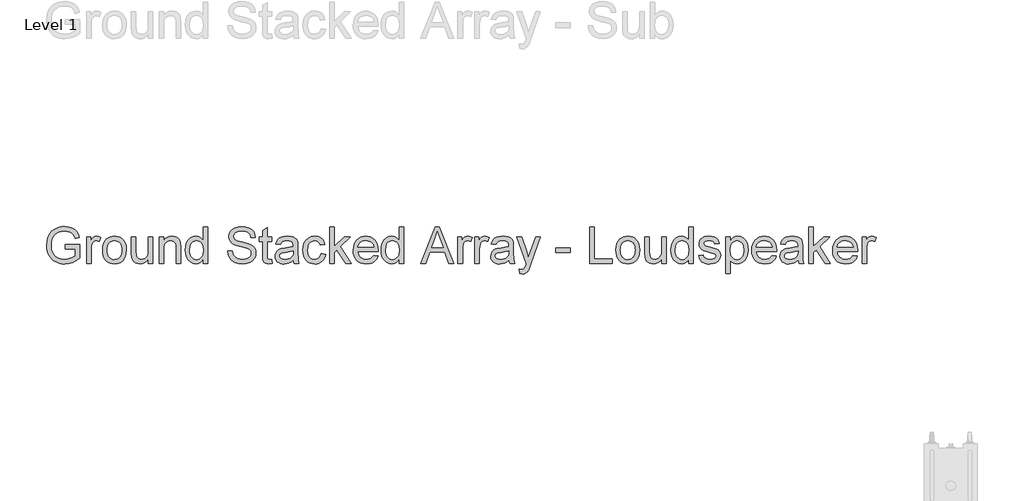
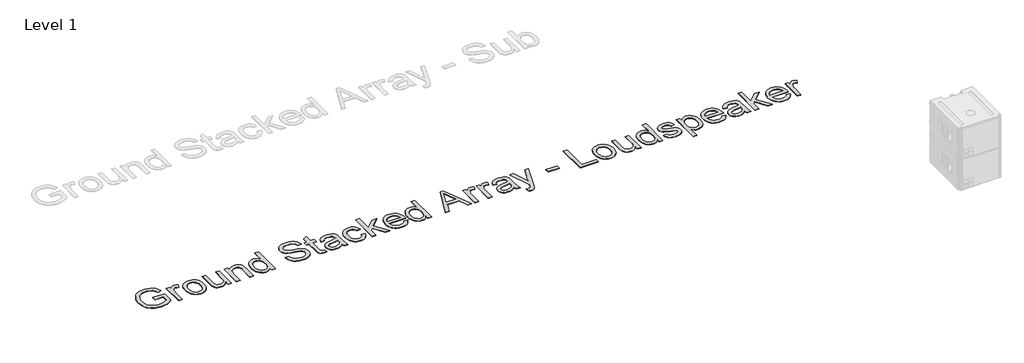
# One storey, part 6 of 31: 1 proxy.
"""IFC4 building model written with IfcOpenShell, lengths in millimetres."""

from ifc_helpers import new_model, si_unit, origin, origin_with_axes, place, context, project, spatial, polyline, outline, extrude, element, save

model = new_model("IFC4")

# Units and contexts
model_context = context("Model", 3, world=origin())
ifc_project = project(units=[si_unit("LENGTHUNIT", "METRE", prefix="MILLI")], contexts=[model_context])

# Site, building, storey
site = spatial("IfcSite", under=ifc_project)
building = spatial("IfcBuilding", under=site)
storey = spatial("IfcBuildingStorey", under=building, Name="Level 1", Elevation=0.0)

# Proxy
placement = place(None, origin())
element("IfcBuildingElementProxy", 1, Name="400mm Arial", ObjectType="400mm Arial", at=placement, inside=storey, context=model_context, shape_type="SweptSolid", body=[
    extrude(outline(polyline([(-20704.1239476, -6940.554912), (-20704.1239476, -6890.3267569), (-20540.8824436, -6890.3267569), (-20540.8824436, -7040.5207128), (-20580.5523854, -7068.1118625), (-20621.473126, -7087.9039138), (-20663.5465635, -7099.8232904), (-20706.6745961, -7103.796416), (-20735.5257415, -7102.2175891), (-20763.021855, -7097.4811084), (-20789.1629364, -7089.5869739), (-20813.9489859, -7078.5351857), (-20836.5798599, -7064.4912905), (-20856.2554153, -7047.6208353), (-20872.975652, -7027.9238202), (-20886.74057, -7005.400245), (-20897.4919213, -6980.7705454), (-20905.1714579, -6954.755157), (-20909.7791799, -6927.3540797), (-20911.3150873, -6898.5673136), (-20905.1959834, -6841.9748), (-20897.5471036, -6815.1592683), (-20886.8386718, -6789.3308865), (-20873.2607605, -6765.6239576), (-20857.003442, -6745.1727844), (-20838.0667163, -6727.9773668), (-20816.4505834, -6714.0377048), (-20792.6240929, -6703.2648937), (-20767.0562942, -6695.5700287), (-20739.7471874, -6690.9531096), (-20710.6967725, -6689.4141366), (-20669.3223108, -6692.982592), (-20632.1171784, -6703.687958), (-20600.7858951, -6720.7576826), (-20577.032981, -6743.4192135), (-20559.4604843, -6772.763934), (-20546.6704536, -6809.8832273), (-20592.9745341, -6822.9307754), (-20603.3120182, -6796.4555345), (-20615.8813197, -6776.4795422), (-20632.5095858, -6761.4209058), (-20655.0239639, -6749.6977329), (-20681.8670869, -6742.156152), (-20711.4815875, -6739.6422917), (-20746.1483341, -6742.3523557), (-20775.7873602, -6750.4825478), (-20800.2883011, -6763.0150611), (-20819.5407922, -6778.9320888), (-20834.3173857, -6797.4120277), (-20845.3906337, -6817.6332747), (-20857.1628576, -6855.5496456), (-20861.0869322, -6896.5071744), (-20856.3657799, -6944.5403003), (-20842.2023231, -6984.0630893), (-20819.0257574, -7014.7934986), (-20787.2652785, -7036.4494854), (-20750.0969342, -7049.288567), (-20710.6967725, -7053.5682609), (-20675.9073985, -7050.3431621), (-20641.9764158, -7040.6678656), (-20612.509068, -7027.3382747), (-20591.1105986, -7013.1502924), (-20591.1105986, -6940.554912), (-20704.1239476, -6940.554912)])), origin_with_axes(), (0.0, 0.0, 1.0), 5.0),
    extrude(outline(polyline([(-20465.540211, -7097.5178966), (-20465.540211, -6802.4274855), (-20421.5905753, -6802.4274855), (-20421.5905753, -6846.0828156), (-20405.3547166, -6820.7725344), (-20390.3941821, -6805.8610508), (-20375.3845967, -6798.5769873), (-20359.0015852, -6796.1489662), (-20333.9856095, -6800.0239898), (-20308.5772264, -6811.6490609), (-20325.3526453, -6856.6778171), (-20343.0109811, -6848.9522952), (-20360.6693169, -6846.3771212), (-20375.6666395, -6848.8541933), (-20389.0698069, -6856.2854096), (-20399.8978003, -6868.1066844), (-20407.1696011, -6883.7539319), (-20413.2764422, -6911.8110654), (-20415.3120559, -6942.4188474), (-20415.3120559, -7097.5178966), (-20465.540211, -7097.5178966)])), origin_with_axes(), (0.0, 0.0, 1.0), 5.0),
    extrude(outline(polyline([(-20289.7416682, -6949.9726911), (-20287.0254728, -6911.7558831), (-20278.8768866, -6878.8243132), (-20265.2959096, -6851.1779813), (-20246.2825418, -6828.8168873), (-20227.1404154, -6814.5246718), (-20206.0117261, -6804.3159465), (-20182.8964741, -6798.1907112), (-20157.7946593, -6796.1489662), (-20130.083948, -6798.6352353), (-20105.0281184, -6806.0940428), (-20082.6271706, -6818.5253885), (-20062.8811045, -6835.9292726), (-20046.7648074, -6857.7170837), (-20035.2531667, -6883.3002108), (-20028.3461822, -6912.6786538), (-20026.0438541, -6945.8524127), (-20030.1150815, -6996.5956026), (-20042.3287637, -7035.2232121), (-20062.3292815, -7064.1509996), (-20089.7610156, -7085.7947237), (-20122.3430977, -7099.2959929), (-20157.7946593, -7103.796416), (-20185.9100407, -7101.3193439), (-20211.1988622, -7093.8881276), (-20233.6611237, -7081.5027671), (-20253.2968252, -7064.1632624), (-20269.241444, -7042.1639191), (-20280.6304575, -7015.7990427), (-20287.4638655, -6985.0686334), (-20289.7416682, -6949.9726911)]), holes=[polyline([(-20239.5135131, -6949.8745892), (-20238.0603792, -6974.2375743), (-20233.7009776, -6995.3325411), (-20226.4353082, -7013.1594894), (-20216.263371, -7027.7184194), (-20203.8902733, -7039.0277251), (-20190.021122, -7047.1058005), (-20174.6559174, -7051.9526458), (-20157.7946593, -7053.5682609), (-20141.0192403, -7051.9434488), (-20125.7153493, -7047.0690123), (-20111.8829863, -7038.9449516), (-20099.5221512, -7027.5712666), (-20089.3502141, -7012.8682495), (-20082.0845447, -6994.7561926), (-20077.725143, -6973.2350959), (-20076.2720091, -6948.3049594), (-20077.7343401, -6924.7145264), (-20082.1213329, -6904.1713827), (-20089.4329875, -6886.6755281), (-20099.669304, -6872.2269628), (-20112.0761243, -6860.9176571), (-20125.8992903, -6852.8395816), (-20141.1388019, -6847.9927363), (-20157.7946593, -6846.3771212), (-20174.6559174, -6847.986605), (-20190.021122, -6852.8150562), (-20203.8902733, -6860.8624748), (-20216.263371, -6872.1288609), (-20226.4353082, -6886.6448713), (-20233.7009776, -6904.4411628), (-20238.0603792, -6925.5177354), (-20239.5135131, -6949.8745892)])]), origin_with_axes(), (0.0, 0.0, 1.0), 5.0),
    extrude(outline(polyline([(-19781.1815981, -7097.5178966), (-19781.1815981, -7046.7992322), (-19799.3549686, -7071.7355001), (-19820.5204461, -7089.54712), (-19844.6780304, -7100.234092), (-19871.8277217, -7103.796416), (-19896.2918744, -7101.2948184), (-19919.0637699, -7093.7900257), (-19938.1691081, -7082.5083112), (-19951.6335892, -7068.6759482), (-19960.695749, -7051.8760037), (-19966.5941236, -7031.6915449), (-19969.5371796, -6984.995057), (-19969.5371796, -6802.4274855), (-19919.3090245, -6802.4274855), (-19919.3090245, -6961.3525075), (-19916.2678667, -7012.5616812), (-19908.947015, -7029.6436685), (-19896.402239, -7042.6299029), (-19879.4674044, -7050.8336714), (-19858.9763773, -7053.5682609), (-19837.3081278, -7050.7723578), (-19817.0378299, -7042.3846483), (-19800.3237245, -7029.1776846), (-19789.3240529, -7011.9240191), (-19783.2172118, -6988.2937322), (-19781.1815981, -6955.9569049), (-19781.1815981, -6802.4274855), (-19730.953443, -6802.4274855), (-19730.953443, -7097.5178966), (-19781.1815981, -7097.5178966)])), origin_with_axes(), (0.0, 0.0, 1.0), 5.0),
    extrude(outline(polyline([(-19661.8897298, -7097.5178966), (-19661.8897298, -6802.4274855), (-19611.6615747, -6802.4274855), (-19611.6615747, -6843.630269), (-19594.2117054, -6822.857199), (-19573.2546944, -6808.0192919), (-19548.7905417, -6799.1165476), (-19520.8192473, -6796.1489662), (-19496.0607891, -6798.5401991), (-19473.3869954, -6805.713898), (-19454.4778609, -6816.7748834), (-19441.0133799, -6830.8279756), (-19431.8776436, -6847.8363865), (-19425.9547435, -6867.7633279), (-19423.3059932, -6916.3237513), (-19423.3059932, -7097.5178966), (-19473.5341482, -7097.5178966), (-19473.5341482, -6923.09278), (-19474.9811507, -6897.1203111), (-19479.3221583, -6878.6526349), (-19487.3297231, -6865.4211459), (-19499.7763972, -6855.1572382), (-19515.7302131, -6848.5721505), (-19534.2592029, -6846.3771212), (-19563.6774998, -6851.30674), (-19588.7547891, -6866.0955962), (-19598.7765078, -6878.168257), (-19605.9348783, -6894.6677645), (-19610.2299006, -6915.5941186), (-19611.6615747, -6940.9473195), (-19611.6615747, -7097.5178966), (-19661.8897298, -7097.5178966)])), origin_with_axes(), (0.0, 0.0, 1.0), 5.0),
    extrude(outline(polyline([(-19172.1652178, -7097.5178966), (-19172.1652178, -7050.1346956), (-19187.1931973, -7073.6116983), (-19205.3972247, -7090.3809859), (-19226.7773, -7100.4425585), (-19251.3334231, -7103.796416), (-19283.8051406, -7098.9403737), (-19313.5300058, -7084.3722466), (-19338.6931343, -7061.1098418), (-19357.4796415, -7030.170966), (-19369.1782889, -6992.806418), (-19373.0778381, -6950.2669967), (-19369.4848573, -6908.2548728), (-19358.7059148, -6870.3139764), (-19340.7532734, -6838.6025484), (-19315.6391959, -6815.2788299), (-19285.2644058, -6800.9314321), (-19251.5296269, -6796.1489662), (-19226.9551096, -6799.5702687), (-19205.2255464, -6809.8341764), (-19186.8069212, -6825.567263), (-19172.1652178, -6845.3961026), (-19172.1652178, -6695.692656), (-19121.9370627, -6695.692656), (-19121.9370627, -7097.5178966), (-19172.1652178, -7097.5178966)]), holes=[polyline([(-19322.849683, -6950.0707929), (-19321.4333373, -6974.4276467), (-19317.1843003, -6995.5042193), (-19310.1025719, -7013.3005109), (-19300.1881521, -7027.8165213), (-19275.4910075, -7047.130326), (-19261.6157249, -7051.9587772), (-19246.7226355, -7053.5682609), (-19231.7590353, -7052.0323536), (-19217.9665262, -7047.4246316), (-19193.894781, -7028.9937436), (-19184.3880971, -7015.0847385), (-19177.5976086, -6997.9322405), (-19172.1652178, -6953.8967657), (-19177.6957104, -6905.7532753), (-19184.6088263, -6887.2181541), (-19194.2871884, -6872.3741156), (-19205.9889016, -6861.0004305), (-19218.9720703, -6852.8763698), (-19233.2366947, -6848.0019334), (-19248.7827746, -6846.3771212), (-19263.9701697, -6847.937554), (-19277.8454523, -6852.6188524), (-19290.4086224, -6860.4210164), (-19301.6596801, -6871.344046), (-19310.9303064, -6885.6270644), (-19317.5521823, -6903.5091951), (-19322.849683, -6950.0707929)])]), origin_with_axes(), (0.0, 0.0, 1.0), 5.0),
    extrude(outline(polyline([(-18902.1888843, -6959.3904702), (-18851.9607292, -6959.3904702), (-18846.1972446, -6987.2636627), (-18835.7739214, -7009.6676762), (-18819.5135372, -7027.4486393), (-18796.2388696, -7041.4526805), (-18767.7893287, -7050.5393658), (-18736.0043243, -7053.5682609), (-18708.0207672, -7051.2751298), (-18683.5198263, -7044.3957365), (-18663.6664613, -7033.5064294), (-18649.6256318, -7019.1835571), (-18641.2747105, -7002.7392319), (-18638.4910701, -6985.4855663), (-18640.5757348, -6968.6733592), (-18646.8297287, -6954.1420204), (-18659.5339202, -6941.7443971), (-18680.9691778, -6931.3333367), (-18754.1041185, -6912.154422), (-18802.1127188, -6899.4624931), (-18832.8308654, -6887.383701), (-18857.8345784, -6870.4856547), (-18875.5542278, -6850.0068903), (-18886.1124411, -6826.3888662), (-18889.6318455, -6800.0730408), (-18885.2785752, -6770.6547439), (-18872.2187644, -6743.2230098), (-18850.7957695, -6719.9728677), (-18821.3529472, -6703.0993468), (-18786.0117502, -6692.8354392), (-18746.8936314, -6689.4141366), (-18704.5136255, -6692.9948547), (-18667.4311204, -6703.737009), (-18636.9704912, -6721.4198702), (-18614.4561131, -6745.8227092), (-18600.2068172, -6775.4249471), (-18594.5414344, -6808.7060049), (-18644.7695895, -6808.7060049), (-18653.9911648, -6778.7358851), (-18662.3543489, -6766.8778221), (-18673.2191305, -6757.1044237), (-18703.2628267, -6744.0078247), (-18744.9315941, -6739.6422917), (-18787.58138, -6743.9587738), (-18803.8846838, -6749.3543764), (-18816.8402614, -6756.90822), (-18833.7628332, -6775.9645074), (-18839.4036904, -6798.6015128), (-18835.4060394, -6817.9030548), (-18823.4130864, -6833.427675), (-18795.0616473, -6847.309089), (-18741.3999269, -6861.4848085), (-18686.0214239, -6874.9492895), (-18652.5196369, -6886.6969879), (-18623.8861549, -6904.9194094), (-18603.9101626, -6927.409262), (-18592.1747269, -6953.9212912), (-18588.262915, -6984.2102421), (-18592.7633381, -7015.1736434), (-18606.2646073, -7044.2976346), (-18628.2148997, -7069.3626612), (-18658.0623923, -7088.1491685), (-18693.9554123, -7099.8846041), (-18734.042287, -7103.796416), (-18783.2526352, -7099.5780358), (-18823.7564429, -7086.9228951), (-18856.0196939, -7065.7819432), (-18880.508372, -7036.1061289), (-18896.2291959, -6999.9555915), (-18902.1888843, -6959.3904702)])), origin_with_axes(), (0.0, 0.0, 1.0), 5.0),
    extrude(outline(polyline([(-18412.4643723, -7055.6284001), (-18406.1858529, -7098.9894246), (-18443.7588673, -7103.796416), (-18467.8674008, -7101.7117514), (-18485.8445676, -7095.4577574), (-18498.5487592, -7085.8192492), (-18506.8383668, -7073.5810415), (-18511.4001035, -7052.5627168), (-18512.9206824, -7016.5838577), (-18512.9206824, -6852.6556406), (-18550.5917987, -6852.6556406), (-18550.5917987, -6802.4274855), (-18512.9206824, -6802.4274855), (-18512.9206824, -6730.715022), (-18462.6925274, -6701.1863605), (-18462.6925274, -6802.4274855), (-18412.4643723, -6802.4274855), (-18412.4643723, -6852.6556406), (-18462.6925274, -6852.6556406), (-18462.6925274, -7015.1123297), (-18460.043777, -7041.0112221), (-18451.4598638, -7050.1837466), (-18434.3410883, -7053.5682609), (-18412.4643723, -7055.6284001)])), origin_with_axes(), (0.0, 0.0, 1.0), 5.0),
    extrude(outline(polyline([(-18173.8806357, -7059.8467803), (-18197.8788045, -7080.4236466), (-18222.5882118, -7093.8881276), (-18248.5729434, -7101.3193439), (-18276.397085, -7103.796416), (-18298.7612446, -7102.3064939), (-18318.3724206, -7097.8367277), (-18335.2306131, -7090.3871173), (-18349.3358219, -7079.9576627), (-18360.4734493, -7067.2105516), (-18368.4288975, -7052.8079715), (-18373.2021663, -7036.7499224), (-18374.793256, -7019.0364043), (-18372.3897603, -6998.2142834), (-18365.1792732, -6979.3051488), (-18354.0569742, -6963.118341), (-18339.9180428, -6950.4632004), (-18323.3020394, -6940.8982685), (-18304.7485241, -6933.982087), (-18261.2893977, -6926.4282434), (-18209.9330712, -6918.4819923), (-18174.1749413, -6909.1623151), (-18173.8806357, -6897.9787024), (-18177.3387264, -6875.5624262), (-18187.7129987, -6860.8961973), (-18210.9140899, -6850.0068903), (-18243.2386545, -6846.3771212), (-18273.1597234, -6848.7928797), (-18294.0554208, -6856.040155), (-18308.3047167, -6869.4433223), (-18318.2865815, -6890.3267569), (-18368.5147366, -6884.0482375), (-18359.7959333, -6856.5797152), (-18346.7851734, -6834.9973049), (-18328.2684463, -6818.491666), (-18303.0317414, -6806.2534583), (-18272.1664421, -6798.6750892), (-18236.7639314, -6796.1489662), (-18202.8084232, -6798.3807836), (-18175.8917239, -6805.0762359), (-18155.5969005, -6815.1439398), (-18141.5070201, -6827.4925121), (-18132.1628174, -6842.7596149), (-18126.1050272, -6861.5829104), (-18123.6524806, -6905.5325461), (-18123.6524806, -6968.0234343), (-18121.1018321, -7055.2850436), (-18111.0954418, -7097.5178966), (-18161.3235969, -7097.5178966), (-18169.3679499, -7080.0557646), (-18173.8806357, -7059.8467803)]), holes=[polyline([(-18173.8806357, -6959.3904702), (-18207.6276774, -6967.7536542), (-18254.9127765, -6974.792463), (-18298.1266482, -6982.9349178), (-18309.3715745, -6988.5021987), (-18317.6979703, -6996.1786697), (-18322.8483183, -7005.3757195), (-18324.5651009, -7015.5047372), (-18320.8249673, -7030.4407462), (-18309.6045664, -7042.6789539), (-18291.149153, -7050.8459342), (-18265.7039817, -7053.5682609), (-18238.7259687, -7050.5638913), (-18214.8872154, -7041.5507824), (-18195.5611479, -7028.2702424), (-18182.1211924, -7012.4635793), (-18176.161504, -6996.1786697), (-18174.1749413, -6973.6152406), (-18173.8806357, -6959.3904702)])]), origin_with_axes(), (0.0, 0.0, 1.0), 5.0),
    extrude(outline(polyline([(-17866.2331858, -6990.7830671), (-17816.0050308, -6997.0615865), (-17821.4680784, -7020.762384), (-17830.009072, -7041.7347234), (-17841.6280117, -7059.9786047), (-17856.3248974, -7075.4940278), (-17873.4804611, -7087.8763227), (-17892.4754348, -7096.720819), (-17913.3098185, -7102.0275167), (-17935.9836121, -7103.796416), (-17964.1541759, -7101.3285409), (-17989.4123406, -7093.9249158), (-18011.7581061, -7081.5855405), (-18031.1914725, -7064.3104152), (-18046.9214935, -7042.4245021), (-18058.1572227, -7016.2527639), (-18064.8986603, -6985.7952004), (-18067.1458061, -6951.0518116), (-18063.3075707, -6906.3541492), (-18051.7928642, -6867.6161751), (-18032.4177458, -6836.3339428), (-18004.9982744, -6814.0035057), (-17972.1954632, -6800.612601), (-17936.6703252, -6796.1489662), (-17914.3858733, -6797.6818078), (-17894.2290057, -6802.2803327), (-17876.1997222, -6809.944541), (-17860.298023, -6820.6744325), (-17846.7936881, -6834.2247527), (-17835.9564976, -6850.3502468), (-17827.7864517, -6869.0509149), (-17822.2835501, -6890.3267569), (-17872.5117052, -6896.6052763), (-17881.622916, -6874.6917721), (-17895.8108983, -6858.9832109), (-17914.2908371, -6849.5286437), (-17936.2779177, -6846.3771212), (-17953.3445766, -6847.928357), (-17968.7373724, -6852.5820642), (-17982.4563052, -6860.338243), (-17994.5013748, -6871.1968932), (-18004.3084957, -6885.4094009), (-18011.313582, -6903.2271522), (-18015.5166338, -6924.6501471), (-18016.9176511, -6949.6783855), (-18011.4362093, -6996.7550181), (-18004.5844072, -7014.6923311), (-17994.9918842, -7028.8956418), (-17983.1859378, -7039.6899126), (-17969.6938656, -7047.4001061), (-17954.5156676, -7052.0262222), (-17937.6513438, -7053.5682609), (-17911.6420868, -7049.7177627), (-17890.3171938, -7038.1662681), (-17874.8048363, -7018.6194714), (-17866.2331858, -6990.7830671)])), origin_with_axes(), (0.0, 0.0, 1.0), 5.0),
    extrude(outline(polyline([(-17772.0553951, -7097.5178966), (-17772.0553951, -6695.692656), (-17721.82724, -6695.692656), (-17721.82724, -6911.6148617), (-17609.2062985, -6802.4274855), (-17539.7501779, -6802.4274855), (-17653.8426473, -6912.9882878), (-17533.4716585, -7097.5178966), (-17592.136574, -7097.5178966), (-17689.8460319, -6947.9125519), (-17721.82724, -6979.0108432), (-17721.82724, -7097.5178966), (-17772.0553951, -7097.5178966)])), origin_with_axes(), (0.0, 0.0, 1.0), 5.0),
    extrude(outline(polyline([(-17282.9194943, -7009.6186252), (-17233.6723579, -7015.8971446), (-17241.2231358, -7035.6217509), (-17251.4165328, -7053.0041752), (-17264.2525487, -7068.0444174), (-17279.7311837, -7080.7424776), (-17297.6930221, -7090.8285757), (-17317.9786484, -7098.0329314), (-17365.5212649, -7103.796416), (-17396.6870013, -7101.3101468), (-17424.4559606, -7093.8513394), (-17448.8281427, -7081.4199936), (-17469.8035478, -7064.0161096), (-17486.6709373, -7042.1240652), (-17498.7190727, -7016.2282384), (-17505.9479539, -6986.3286292), (-17508.3575809, -6952.4252377), (-17505.9234284, -6917.3722149), (-17498.6209708, -6886.4762587), (-17486.4502081, -6859.737369), (-17469.4111404, -6837.1555459), (-17448.4909176, -6819.2151673), (-17424.6766898, -6806.4006111), (-17397.9684569, -6798.7118774), (-17368.366219, -6796.1489662), (-17339.7174087, -6798.705746), (-17313.8093191, -6806.3760856), (-17290.6419505, -6819.159985), (-17270.2153027, -6837.057444), (-17253.5410513, -6859.5902162), (-17241.6308717, -6886.280055), (-17234.4847639, -6917.1269603), (-17232.102728, -6952.1309321), (-17232.3970336, -6965.6689895), (-17458.1294259, -6965.6689895), (-17455.2200924, -6985.7124269), (-17449.435148, -7003.2665294), (-17440.7745927, -7018.3312971), (-17429.2384265, -7030.90673), (-17415.4643115, -7040.8211498), (-17400.0899098, -7047.9028782), (-17364.5402463, -7053.5682609), (-17337.807488, -7050.944036), (-17315.2931099, -7043.0713613), (-17296.997112, -7029.4597275), (-17282.9194943, -7009.6186252)]), holes=[polyline([(-17458.1294259, -6915.4408345), (-17282.3308831, -6915.4408345), (-17289.1244373, -6888.9042799), (-17302.4417655, -6869.9215689), (-17316.1392385, -6859.6208731), (-17331.7251723, -6852.2632332), (-17349.1995671, -6847.8486492), (-17368.5624228, -6846.3771212), (-17402.4198291, -6851.073748), (-17430.4156489, -6865.1636285), (-17449.8766064, -6887.1261836), (-17458.1294259, -6915.4408345)])]), origin_with_axes(), (0.0, 0.0, 1.0), 5.0),
    extrude(outline(polyline([(-16999.7975108, -7097.5178966), (-16999.7975108, -7050.1346956), (-17014.8254903, -7073.6116983), (-17033.0295177, -7090.3809859), (-17054.409593, -7100.4425585), (-17078.9657162, -7103.796416), (-17111.4374336, -7098.9403737), (-17141.1622988, -7084.3722466), (-17166.3254273, -7061.1098418), (-17185.1119345, -7030.170966), (-17196.810582, -6992.806418), (-17200.7101311, -6950.2669967), (-17197.1171503, -6908.2548728), (-17186.3382078, -6870.3139764), (-17168.3855665, -6838.6025484), (-17143.2714889, -6815.2788299), (-17112.8966989, -6800.9314321), (-17079.1619199, -6796.1489662), (-17054.5874026, -6799.5702687), (-17032.8578394, -6809.8341764), (-17014.4392142, -6825.567263), (-16999.7975108, -6845.3961026), (-16999.7975108, -6695.692656), (-16949.5693557, -6695.692656), (-16949.5693557, -7097.5178966), (-16999.7975108, -7097.5178966)]), holes=[polyline([(-17150.481976, -6950.0707929), (-17149.0656303, -6974.4276467), (-17144.8165933, -6995.5042193), (-17137.7348649, -7013.3005109), (-17127.8204451, -7027.8165213), (-17103.1233005, -7047.130326), (-17089.2480179, -7051.9587772), (-17074.3549285, -7053.5682609), (-17059.3913283, -7052.0323536), (-17045.5988192, -7047.4246316), (-17021.527074, -7028.9937436), (-17012.0203901, -7015.0847385), (-17005.2299016, -6997.9322405), (-16999.7975108, -6953.8967657), (-17005.3280035, -6905.7532753), (-17012.2411193, -6887.2181541), (-17021.9194814, -6872.3741156), (-17033.6211946, -6861.0004305), (-17046.6043633, -6852.8763698), (-17060.8689877, -6848.0019334), (-17076.4150677, -6846.3771212), (-17091.6024627, -6847.937554), (-17105.4777453, -6852.6188524), (-17118.0409154, -6860.4210164), (-17129.2919731, -6871.344046), (-17138.5625994, -6885.6270644), (-17145.1844753, -6903.5091951), (-17150.481976, -6950.0707929)])]), origin_with_axes(), (0.0, 0.0, 1.0), 5.0),
    extrude(outline(polyline([(-16757.682107, -7097.5178966), (-16597.2855571, -6695.692656), (-16554.5131438, -6695.692656), (-16394.2146958, -7097.5178966), (-16447.287805, -7097.5178966), (-16493.199478, -6971.9475089), (-16658.7954267, -6971.9475089), (-16704.7070997, -7097.5178966), (-16757.682107, -7097.5178966)]), holes=[polyline([(-16640.352276, -6921.7193538), (-16511.5445268, -6921.7193538), (-16547.842217, -6822.9307754), (-16575.9974524, -6745.9208111), (-16601.013428, -6814.2978113), (-16640.352276, -6921.7193538)])]), origin_with_axes(), (0.0, 0.0, 1.0), 5.0),
    extrude(outline(polyline([(-16346.8314948, -7097.5178966), (-16346.8314948, -6802.4274855), (-16302.8818591, -6802.4274855), (-16302.8818591, -6846.0828156), (-16286.6460004, -6820.7725344), (-16271.6854659, -6805.8610508), (-16256.6758805, -6798.5769873), (-16240.292869, -6796.1489662), (-16215.2768934, -6800.0239898), (-16189.8685102, -6811.6490609), (-16206.6439292, -6856.6778171), (-16224.302265, -6848.9522952), (-16241.9606007, -6846.3771212), (-16256.9579234, -6848.8541933), (-16270.3610908, -6856.2854096), (-16281.1890842, -6868.1066844), (-16288.4608849, -6883.7539319), (-16294.567726, -6911.8110654), (-16296.6033398, -6942.4188474), (-16296.6033398, -7097.5178966), (-16346.8314948, -7097.5178966)])), origin_with_axes(), (0.0, 0.0, 1.0), 5.0),
    extrude(outline(polyline([(-16158.4759133, -7097.5178966), (-16158.4759133, -6802.4274855), (-16114.5262776, -6802.4274855), (-16114.5262776, -6846.0828156), (-16098.2904189, -6820.7725344), (-16083.3298844, -6805.8610508), (-16068.320299, -6798.5769873), (-16051.9372875, -6796.1489662), (-16026.9213118, -6800.0239898), (-16001.5129287, -6811.6490609), (-16018.2883477, -6856.6778171), (-16035.9466834, -6848.9522952), (-16053.6050192, -6846.3771212), (-16068.6023419, -6848.8541933), (-16082.0055092, -6856.2854096), (-16092.8335026, -6868.1066844), (-16100.1053034, -6883.7539319), (-16106.2121445, -6911.8110654), (-16108.2477582, -6942.4188474), (-16108.2477582, -7097.5178966), (-16158.4759133, -7097.5178966)])), origin_with_axes(), (0.0, 0.0, 1.0), 5.0),
    extrude(outline(polyline([(-15781.7647502, -7059.8467803), (-15805.7629191, -7080.4236466), (-15830.4723264, -7093.8881276), (-15856.457058, -7101.3193439), (-15884.2811996, -7103.796416), (-15906.6453592, -7102.3064939), (-15926.2565352, -7097.8367277), (-15943.1147276, -7090.3871173), (-15957.2199365, -7079.9576627), (-15968.3575639, -7067.2105516), (-15976.313012, -7052.8079715), (-15981.0862809, -7036.7499224), (-15982.6773705, -7019.0364043), (-15980.2738748, -6998.2142834), (-15973.0633877, -6979.3051488), (-15961.9410887, -6963.118341), (-15947.8021574, -6950.4632004), (-15931.1861539, -6940.8982685), (-15912.6326387, -6933.982087), (-15869.1735123, -6926.4282434), (-15817.8171858, -6918.4819923), (-15782.0590558, -6909.1623151), (-15781.7647502, -6897.9787024), (-15785.222841, -6875.5624262), (-15795.5971133, -6860.8961973), (-15818.7982044, -6850.0068903), (-15851.1227691, -6846.3771212), (-15881.043838, -6848.7928797), (-15901.9395353, -6856.040155), (-15916.1888313, -6869.4433223), (-15926.1706961, -6890.3267569), (-15976.3988512, -6884.0482375), (-15967.6800479, -6856.5797152), (-15954.669288, -6834.9973049), (-15936.1525609, -6818.491666), (-15910.915856, -6806.2534583), (-15880.0505566, -6798.6750892), (-15844.6480459, -6796.1489662), (-15810.6925378, -6798.3807836), (-15783.7758385, -6805.0762359), (-15763.4810151, -6815.1439398), (-15749.3911347, -6827.4925121), (-15740.046932, -6842.7596149), (-15733.9891418, -6861.5829104), (-15731.5365952, -6905.5325461), (-15731.5365952, -6968.0234343), (-15728.9859467, -7055.2850436), (-15718.9795564, -7097.5178966), (-15769.2077115, -7097.5178966), (-15777.2520644, -7080.0557646), (-15781.7647502, -7059.8467803)]), holes=[polyline([(-15781.7647502, -6959.3904702), (-15815.5117919, -6967.7536542), (-15862.796891, -6974.792463), (-15906.0107627, -6982.9349178), (-15917.2556891, -6988.5021987), (-15925.5820849, -6996.1786697), (-15930.7324328, -7005.3757195), (-15932.4492155, -7015.5047372), (-15928.7090818, -7030.4407462), (-15917.488681, -7042.6789539), (-15899.0332676, -7050.8459342), (-15873.5880962, -7053.5682609), (-15846.6100833, -7050.5638913), (-15822.77133, -7041.5507824), (-15803.4452625, -7028.2702424), (-15790.0053069, -7012.4635793), (-15784.0456186, -6996.1786697), (-15782.0590558, -6973.6152406), (-15781.7647502, -6959.3904702)])]), origin_with_axes(), (0.0, 0.0, 1.0), 5.0),
    extrude(outline(polyline([(-15662.4728819, -7210.5312455), (-15668.7514013, -7162.1670259), (-15643.2449163, -7166.5816098), (-15629.8294862, -7165.195921), (-15619.406163, -7161.0388544), (-15604.7889851, -7145.5878106), (-15591.0547239, -7108.6034074), (-15587.1306493, -7096.4387761), (-15693.8654789, -6802.4274855), (-15640.9885734, -6802.4274855), (-15584.2856952, -6966.3557026), (-15564.5672203, -7031.8877487), (-15544.8487453, -6973.9095462), (-15486.6743392, -6802.4274855), (-15434.1898412, -6802.4274855), (-15536.9024942, -7104.5812309), (-15563.5862016, -7170.113277), (-15577.2468864, -7191.0334998), (-15592.7224556, -7205.5280504), (-15610.675097, -7213.9893363), (-15631.7669981, -7216.8097649), (-15662.4728819, -7210.5312455)])), origin_with_axes(), (0.0, 0.0, 1.0), 5.0),
    extrude(outline(polyline([(-15260.6476413, -6978.2260283), (-15260.6476413, -6927.9978732), (-15103.6846567, -6927.9978732), (-15103.6846567, -6978.2260283), (-15260.6476413, -6978.2260283)])), origin_with_axes(), (0.0, 0.0, 1.0), 5.0),
    extrude(outline(polyline([(-14883.9364783, -7097.5178966), (-14883.9364783, -6695.692656), (-14833.7083232, -6695.692656), (-14833.7083232, -7047.2897415), (-14632.7957029, -7047.2897415), (-14632.7957029, -7097.5178966), (-14883.9364783, -7097.5178966)])), origin_with_axes(), (0.0, 0.0, 1.0), 5.0),
    extrude(outline(polyline([(-14595.1245866, -6949.9726911), (-14592.4083912, -6911.7558831), (-14584.259805, -6878.8243132), (-14570.678828, -6851.1779813), (-14551.6654602, -6828.8168873), (-14532.5233337, -6814.5246718), (-14511.3946445, -6804.3159465), (-14488.2793925, -6798.1907112), (-14463.1775777, -6796.1489662), (-14435.4668664, -6798.6352353), (-14410.4110368, -6806.0940428), (-14388.010089, -6818.5253885), (-14368.2640229, -6835.9292726), (-14352.1477258, -6857.7170837), (-14340.6360851, -6883.3002108), (-14333.7291006, -6912.6786538), (-14331.4267725, -6945.8524127), (-14335.4979999, -6996.5956026), (-14347.7116821, -7035.2232121), (-14367.7121999, -7064.1509996), (-14395.143934, -7085.7947237), (-14427.7260161, -7099.2959929), (-14463.1775777, -7103.796416), (-14491.2929591, -7101.3193439), (-14516.5817806, -7093.8881276), (-14539.0440421, -7081.5027671), (-14558.6797436, -7064.1632624), (-14574.6243624, -7042.1639191), (-14586.0133758, -7015.7990427), (-14592.8467839, -6985.0686334), (-14595.1245866, -6949.9726911)]), holes=[polyline([(-14544.8964315, -6949.8745892), (-14543.4432976, -6974.2375743), (-14539.083896, -6995.3325411), (-14531.8182266, -7013.1594894), (-14521.6462894, -7027.7184194), (-14509.2731917, -7039.0277251), (-14495.4040404, -7047.1058005), (-14480.0388358, -7051.9526458), (-14463.1775777, -7053.5682609), (-14446.4021587, -7051.9434488), (-14431.0982677, -7047.0690123), (-14417.2659047, -7038.9449516), (-14404.9050696, -7027.5712666), (-14394.7331325, -7012.8682495), (-14387.467463, -6994.7561926), (-14383.1080614, -6973.2350959), (-14381.6549275, -6948.3049594), (-14383.1172585, -6924.7145264), (-14387.5042512, -6904.1713827), (-14394.8159059, -6886.6755281), (-14405.0522224, -6872.2269628), (-14417.4590427, -6860.9176571), (-14431.2822087, -6852.8395816), (-14446.5217203, -6847.9927363), (-14463.1775777, -6846.3771212), (-14480.0388358, -6847.986605), (-14495.4040404, -6852.8150562), (-14509.2731917, -6860.8624748), (-14521.6462894, -6872.1288609), (-14531.8182266, -6886.6448713), (-14539.083896, -6904.4411628), (-14543.4432976, -6925.5177354), (-14544.8964315, -6949.8745892)])]), origin_with_axes(), (0.0, 0.0, 1.0), 5.0),
    extrude(outline(polyline([(-14086.5645165, -7097.5178966), (-14086.5645165, -7046.7992322), (-14104.737887, -7071.7355001), (-14125.9033645, -7089.54712), (-14150.0609488, -7100.234092), (-14177.2106401, -7103.796416), (-14201.6747928, -7101.2948184), (-14224.4466883, -7093.7900257), (-14243.5520265, -7082.5083112), (-14257.0165076, -7068.6759482), (-14266.0786674, -7051.8760037), (-14271.977042, -7031.6915449), (-14274.920098, -6984.995057), (-14274.920098, -6802.4274855), (-14224.6919429, -6802.4274855), (-14224.6919429, -6961.3525075), (-14221.6507851, -7012.5616812), (-14214.3299334, -7029.6436685), (-14201.7851574, -7042.6299029), (-14184.8503228, -7050.8336714), (-14164.3592957, -7053.5682609), (-14142.6910462, -7050.7723578), (-14122.4207483, -7042.3846483), (-14105.7066429, -7029.1776846), (-14094.7069713, -7011.9240191), (-14088.6001302, -6988.2937322), (-14086.5645165, -6955.9569049), (-14086.5645165, -6802.4274855), (-14036.3363614, -6802.4274855), (-14036.3363614, -7097.5178966), (-14086.5645165, -7097.5178966)])), origin_with_axes(), (0.0, 0.0, 1.0), 5.0),
    extrude(outline(polyline([(-13785.195586, -7097.5178966), (-13785.195586, -7050.1346956), (-13800.2235655, -7073.6116983), (-13818.4275929, -7090.3809859), (-13839.8076682, -7100.4425585), (-13864.3637914, -7103.796416), (-13896.8355088, -7098.9403737), (-13926.560374, -7084.3722466), (-13951.7235025, -7061.1098418), (-13970.5100097, -7030.170966), (-13982.2086572, -6992.806418), (-13986.1082063, -6950.2669967), (-13982.5152255, -6908.2548728), (-13971.736283, -6870.3139764), (-13953.7836417, -6838.6025484), (-13928.6695641, -6815.2788299), (-13898.2947741, -6800.9314321), (-13864.5599951, -6796.1489662), (-13839.9854778, -6799.5702687), (-13818.2559146, -6809.8341764), (-13799.8372894, -6825.567263), (-13785.195586, -6845.3961026), (-13785.195586, -6695.692656), (-13734.9674309, -6695.692656), (-13734.9674309, -7097.5178966), (-13785.195586, -7097.5178966)]), holes=[polyline([(-13935.8800512, -6950.0707929), (-13934.4637056, -6974.4276467), (-13930.2146685, -6995.5042193), (-13923.1329401, -7013.3005109), (-13913.2185203, -7027.8165213), (-13888.5213757, -7047.130326), (-13874.6460931, -7051.9587772), (-13859.7530037, -7053.5682609), (-13844.7894035, -7052.0323536), (-13830.9968944, -7047.4246316), (-13806.9251492, -7028.9937436), (-13797.4184653, -7015.0847385), (-13790.6279768, -6997.9322405), (-13785.195586, -6953.8967657), (-13790.7260787, -6905.7532753), (-13797.6391945, -6887.2181541), (-13807.3175567, -6872.3741156), (-13819.0192698, -6861.0004305), (-13832.0024385, -6852.8763698), (-13846.2670629, -6848.0019334), (-13861.8131429, -6846.3771212), (-13877.0005379, -6847.937554), (-13890.8758205, -6852.6188524), (-13903.4389906, -6860.4210164), (-13914.6900483, -6871.344046), (-13923.9606746, -6885.6270644), (-13930.5825505, -6903.5091951), (-13935.8800512, -6950.0707929)])]), origin_with_axes(), (0.0, 0.0, 1.0), 5.0),
    extrude(outline(polyline([(-13678.4607565, -7009.6186252), (-13628.2326014, -7003.3401058), (-13620.3108758, -7024.8244144), (-13604.9824593, -7040.6188147), (-13582.1492501, -7050.3308994), (-13551.7131464, -7053.5682609), (-13521.6449247, -7050.6006795), (-13500.5039727, -7041.6979352), (-13487.9959848, -7028.7975399), (-13483.8266556, -7013.8370054), (-13488.0205103, -7001.034712), (-13500.6020745, -6991.2735764), (-13552.3017576, -6976.9507041), (-13627.9382958, -6952.3761868), (-13647.0804223, -6940.0276145), (-13660.9495735, -6923.6813912), (-13669.3740712, -6904.3798491), (-13672.1822371, -6883.1653208), (-13669.9258942, -6863.7043632), (-13663.1568655, -6845.7394591), (-13652.4882876, -6829.981847), (-13638.5332973, -6817.1427654), (-13606.6011401, -6802.2803327), (-13585.7177055, -6797.6818078), (-13563.3872684, -6796.1489662), (-13530.6948217, -6798.6137755), (-13502.2698063, -6806.0082036), (-13479.4120716, -6817.6087492), (-13463.4214676, -6832.691911), (-13452.8264661, -6852.3735978), (-13446.1555393, -6877.7697182), (-13496.3836943, -6884.0482375), (-13502.7235274, -6868.2415745), (-13515.2683034, -6856.3344606), (-13534.1406498, -6848.8664561), (-13559.4631938, -6846.3771212), (-13588.3051422, -6848.7560915), (-13607.5331078, -6855.8930022), (-13618.3488385, -6866.193698), (-13621.954082, -6878.0640238), (-13615.9698682, -6892.6812017), (-13597.2324119, -6903.7667125), (-13553.9694893, -6914.4598158), (-13480.2459375, -6938.1023654), (-13460.7727172, -6949.4086054), (-13446.0083865, -6964.8841746), (-13436.700972, -6984.5781241), (-13433.5985005, -7008.5395047), (-13437.2405322, -7033.3102257), (-13448.1666275, -7056.6094187), (-13465.9598533, -7076.6099365), (-13490.2032768, -7091.4846319), (-13519.4866836, -7100.71847), (-13552.3998595, -7103.796416), (-13579.4330547, -7102.3126253), (-13603.0449475, -7097.8612531), (-13623.2355376, -7090.4422996), (-13640.0048252, -7080.0557646), (-13653.7022982, -7066.7506991), (-13664.6774444, -7050.576154), (-13672.9302638, -7031.5321294), (-13678.4607565, -7009.6186252)])), origin_with_axes(), (0.0, 0.0, 1.0), 5.0),
    extrude(outline(polyline([(-13377.091826, -7210.5312455), (-13377.091826, -6802.4274855), (-13326.863671, -6802.4274855), (-13326.863671, -6851.674622), (-13310.4806594, -6827.3821476), (-13292.1356106, -6810.0303801), (-13270.749404, -6799.6193196), (-13245.242919, -6796.1489662), (-13211.2751481, -6801.0050085), (-13181.5748083, -6815.5731355), (-13157.3926985, -6838.9704304), (-13139.9796174, -6870.3139764), (-13129.4581923, -6907.3229051), (-13125.9510507, -6947.7163482), (-13129.9119135, -6990.6727025), (-13141.7945019, -7029.0918455), (-13161.2186713, -7061.0240027), (-13187.8042768, -7084.5193994), (-13218.767678, -7098.9771619), (-13251.3252346, -7103.796416), (-13274.4159612, -7100.5713172), (-13295.0296156, -7090.8960207), (-13312.6756887, -7076.2911055), (-13326.863671, -7058.2771505), (-13326.863671, -7210.5312455), (-13377.091826, -7210.5312455)]), holes=[polyline([(-13326.863671, -6952.3271358), (-13321.4312802, -6997.3558921), (-13314.6407917, -7014.7934986), (-13305.1341078, -7028.8465908), (-13281.086888, -7047.3878434), (-13267.3250357, -7052.0231565), (-13252.4043551, -7053.5682609), (-13237.2690767, -7051.9679742), (-13223.2558384, -7047.1671142), (-13210.3646401, -7039.1656808), (-13198.595482, -7027.9636741), (-13188.7883611, -7013.4016784), (-13181.7832748, -6995.3202783), (-13177.580223, -6973.7194739), (-13176.1792057, -6948.599265), (-13181.6483847, -6903.8157634), (-13188.4848585, -6886.2432668), (-13198.0559217, -6871.8836062), (-13222.0663533, -6852.7537425), (-13235.6718557, -6847.9712765), (-13250.344216, -6846.3771212), (-13264.9705909, -6848.0724441), (-13278.7324433, -6853.1584127), (-13303.6625798, -6873.502287), (-13313.8130572, -6888.6007772), (-13321.0633982, -6906.7710821), (-13325.4136028, -6928.0132016), (-13326.863671, -6952.3271358)])]), origin_with_axes(), (0.0, 0.0, 1.0), 5.0),
    extrude(outline(polyline([(-12862.8418477, -7009.6186252), (-12813.5947113, -7015.8971446), (-12821.1454892, -7035.6217509), (-12831.3388862, -7053.0041752), (-12844.1749021, -7068.0444174), (-12859.6535371, -7080.7424776), (-12877.6153755, -7090.8285757), (-12897.9010018, -7098.0329314), (-12945.4436184, -7103.796416), (-12976.6093547, -7101.3101468), (-13004.378314, -7093.8513394), (-13028.7504962, -7081.4199936), (-13049.7259013, -7064.0161096), (-13066.5932907, -7042.1240652), (-13078.6414261, -7016.2282384), (-13085.8703073, -6986.3286292), (-13088.2799343, -6952.4252377), (-13085.8457818, -6917.3722149), (-13078.5433242, -6886.4762587), (-13066.3725615, -6859.737369), (-13049.3334938, -6837.1555459), (-13028.413271, -6819.2151673), (-13004.5990432, -6806.4006111), (-12977.8908103, -6798.7118774), (-12948.2885725, -6796.1489662), (-12919.6397621, -6798.705746), (-12893.7316726, -6806.3760856), (-12870.5643039, -6819.159985), (-12850.1376561, -6837.057444), (-12833.4634047, -6859.5902162), (-12821.5532251, -6886.280055), (-12814.4071174, -6917.1269603), (-12812.0250814, -6952.1309321), (-12812.319387, -6965.6689895), (-13038.0517793, -6965.6689895), (-13035.1424458, -6985.7124269), (-13029.3575015, -7003.2665294), (-13020.6969462, -7018.3312971), (-13009.1607799, -7030.90673), (-12995.3866649, -7040.8211498), (-12980.0122632, -7047.9028782), (-12944.4625997, -7053.5682609), (-12917.7298414, -7050.944036), (-12895.2154633, -7043.0713613), (-12876.9194654, -7029.4597275), (-12862.8418477, -7009.6186252)]), holes=[polyline([(-13038.0517793, -6915.4408345), (-12862.2532365, -6915.4408345), (-12869.0467907, -6888.9042799), (-12882.3641189, -6869.9215689), (-12896.0615919, -6859.6208731), (-12911.6475257, -6852.2632332), (-12929.1219205, -6847.8486492), (-12948.4847762, -6846.3771212), (-12982.3421825, -6851.073748), (-13010.3380023, -6865.1636285), (-13029.7989598, -6887.1261836), (-13038.0517793, -6915.4408345)])]), origin_with_axes(), (0.0, 0.0, 1.0), 5.0),
    extrude(outline(polyline([(-12573.4413448, -7059.8467803), (-12597.4395137, -7080.4236466), (-12622.148921, -7093.8881276), (-12648.1336526, -7101.3193439), (-12675.9577942, -7103.796416), (-12698.3219538, -7102.3064939), (-12717.9331298, -7097.8367277), (-12734.7913222, -7090.3871173), (-12748.8965311, -7079.9576627), (-12760.0341585, -7067.2105516), (-12767.9896066, -7052.8079715), (-12772.7628755, -7036.7499224), (-12774.3539651, -7019.0364043), (-12771.9504694, -6998.2142834), (-12764.7399823, -6979.3051488), (-12753.6176833, -6963.118341), (-12739.478752, -6950.4632004), (-12722.8627485, -6940.8982685), (-12704.3092333, -6933.982087), (-12660.8501069, -6926.4282434), (-12609.4937804, -6918.4819923), (-12573.7356504, -6909.1623151), (-12573.4413448, -6897.9787024), (-12576.8994356, -6875.5624262), (-12587.2737079, -6860.8961973), (-12610.474799, -6850.0068903), (-12642.7993637, -6846.3771212), (-12672.7204326, -6848.7928797), (-12693.6161299, -6856.040155), (-12707.8654259, -6869.4433223), (-12717.8472907, -6890.3267569), (-12768.0754457, -6884.0482375), (-12759.3566425, -6856.5797152), (-12746.3458826, -6834.9973049), (-12727.8291555, -6818.491666), (-12702.5924506, -6806.2534583), (-12671.7271512, -6798.6750892), (-12636.3246405, -6796.1489662), (-12602.3691324, -6798.3807836), (-12575.4524331, -6805.0762359), (-12555.1576097, -6815.1439398), (-12541.0677293, -6827.4925121), (-12531.7235266, -6842.7596149), (-12525.6657364, -6861.5829104), (-12523.2131898, -6905.5325461), (-12523.2131898, -6968.0234343), (-12520.6625413, -7055.2850436), (-12510.656151, -7097.5178966), (-12560.8843061, -7097.5178966), (-12568.928659, -7080.0557646), (-12573.4413448, -7059.8467803)]), holes=[polyline([(-12573.4413448, -6959.3904702), (-12607.1883865, -6967.7536542), (-12654.4734856, -6974.792463), (-12697.6873573, -6982.9349178), (-12708.9322837, -6988.5021987), (-12717.2586795, -6996.1786697), (-12722.4090274, -7005.3757195), (-12724.1258101, -7015.5047372), (-12720.3856764, -7030.4407462), (-12709.1652756, -7042.6789539), (-12690.7098622, -7050.8459342), (-12665.2646908, -7053.5682609), (-12638.2866778, -7050.5638913), (-12614.4479246, -7041.5507824), (-12595.1218571, -7028.2702424), (-12581.6819015, -7012.4635793), (-12575.7222132, -6996.1786697), (-12573.7356504, -6973.6152406), (-12573.4413448, -6959.3904702)])]), origin_with_axes(), (0.0, 0.0, 1.0), 5.0),
    extrude(outline(polyline([(-12454.1494765, -7097.5178966), (-12454.1494765, -6695.692656), (-12403.9213215, -6695.692656), (-12403.9213215, -6911.6148617), (-12291.30038, -6802.4274855), (-12221.8442593, -6802.4274855), (-12335.9367287, -6912.9882878), (-12215.5657399, -7097.5178966), (-12274.2306554, -7097.5178966), (-12371.9401133, -6947.9125519), (-12403.9213215, -6979.0108432), (-12403.9213215, -7097.5178966), (-12454.1494765, -7097.5178966)])), origin_with_axes(), (0.0, 0.0, 1.0), 5.0),
    extrude(outline(polyline([(-11965.0135757, -7009.6186252), (-11915.7664393, -7015.8971446), (-11923.3172173, -7035.6217509), (-11933.5106142, -7053.0041752), (-11946.3466302, -7068.0444174), (-11961.8252651, -7080.7424776), (-11979.7871035, -7090.8285757), (-12000.0727299, -7098.0329314), (-12047.6153464, -7103.796416), (-12078.7810828, -7101.3101468), (-12106.550042, -7093.8513394), (-12130.9222242, -7081.4199936), (-12151.8976293, -7064.0161096), (-12168.7650188, -7042.1240652), (-12180.8131541, -7016.2282384), (-12188.0420353, -6986.3286292), (-12190.4516624, -6952.4252377), (-12188.0175099, -6917.3722149), (-12180.7150522, -6886.4762587), (-12168.5442896, -6859.737369), (-12151.5052218, -6837.1555459), (-12130.584999, -6819.2151673), (-12106.7707712, -6806.4006111), (-12080.0625384, -6798.7118774), (-12050.4603005, -6796.1489662), (-12021.8114901, -6798.705746), (-11995.9034006, -6806.3760856), (-11972.736032, -6819.159985), (-11952.3093842, -6837.057444), (-11935.6351327, -6859.5902162), (-11923.7249532, -6886.280055), (-11916.5788454, -6917.1269603), (-11914.1968095, -6952.1309321), (-11914.4911151, -6965.6689895), (-12140.2235073, -6965.6689895), (-12137.3141739, -6985.7124269), (-12131.5292295, -7003.2665294), (-12122.8686742, -7018.3312971), (-12111.332508, -7030.90673), (-12097.5583929, -7040.8211498), (-12082.1839912, -7047.9028782), (-12046.6343277, -7053.5682609), (-12019.9015694, -7050.944036), (-11997.3871913, -7043.0713613), (-11979.0911934, -7029.4597275), (-11965.0135757, -7009.6186252)]), holes=[polyline([(-12140.2235073, -6915.4408345), (-11964.4249646, -6915.4408345), (-11971.2185187, -6888.9042799), (-11984.535847, -6869.9215689), (-11998.2333199, -6859.6208731), (-12013.8192538, -6852.2632332), (-12031.2936485, -6847.8486492), (-12050.6565042, -6846.3771212), (-12084.5139105, -6851.073748), (-12112.5097303, -6865.1636285), (-12131.9706879, -6887.1261836), (-12140.2235073, -6915.4408345)])]), origin_with_axes(), (0.0, 0.0, 1.0), 5.0),
    extrude(outline(polyline([(-11863.9686544, -7097.5178966), (-11863.9686544, -6802.4274855), (-11820.0190187, -6802.4274855), (-11820.0190187, -6846.0828156), (-11803.78316, -6820.7725344), (-11788.8226255, -6805.8610508), (-11773.8130401, -6798.5769873), (-11757.4300286, -6796.1489662), (-11732.4140529, -6800.0239898), (-11707.0056698, -6811.6490609), (-11723.7810888, -6856.6778171), (-11741.4394245, -6848.9522952), (-11759.0977603, -6846.3771212), (-11774.095083, -6848.8541933), (-11787.4982503, -6856.2854096), (-11798.3262437, -6868.1066844), (-11805.5980445, -6883.7539319), (-11811.7048856, -6911.8110654), (-11813.7404993, -6942.4188474), (-11813.7404993, -7097.5178966), (-11863.9686544, -7097.5178966)])), origin_with_axes(), (0.0, 0.0, 1.0), 5.0),
])

save(model, "model.ifc")
